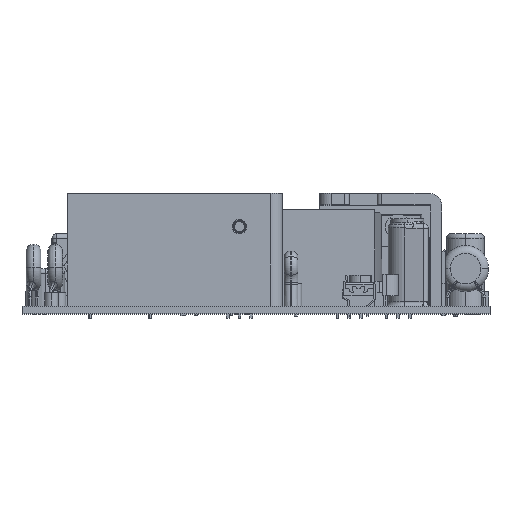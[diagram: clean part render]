
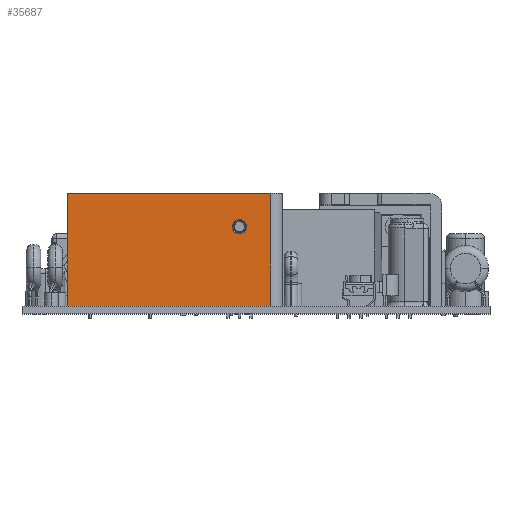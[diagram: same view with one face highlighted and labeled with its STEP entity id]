
A CAD part, top view. The second image highlights one B-rep face of the part: STEP entity #35687.
In plain terms, the highlighted planar face has unit normal (0, 0, 1).
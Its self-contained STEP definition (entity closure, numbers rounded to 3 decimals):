
#1046 = CARTESIAN_POINT ( 'NONE',  ( -27.45, 15., 5.3 ) ) ;
#2818 = DIRECTION ( 'NONE',  ( -1., 0., 0. ) ) ;
#2819 = DIRECTION ( 'NONE',  ( 0., 0., -1. ) ) ;
#2820 = AXIS2_PLACEMENT_3D ( 'NONE', #2826, #2819, #2818 ) ;
#2821 = CIRCLE ( 'NONE', #2820, 1.55 ) ;
#2826 = CARTESIAN_POINT ( 'NONE',  ( -25.9, 15., 5.3 ) ) ;
#2880 = CARTESIAN_POINT ( 'NONE',  ( -24.35, 15., 5.3 ) ) ;
#13644 = EDGE_CURVE ( 'NONE', #13646, #13955, #2821, .T. ) ;
#13646 = VERTEX_POINT ( 'NONE', #2880 ) ;
#13955 = VERTEX_POINT ( 'NONE', #1046 ) ;
#18005 = EDGE_CURVE ( 'NONE', #18007, #18309, #20535, .T. ) ;
#18007 = VERTEX_POINT ( 'NONE', #20710 ) ;
#18309 = VERTEX_POINT ( 'NONE', #21698 ) ;
#20528 = DIRECTION ( 'NONE',  ( 1., 0., 0. ) ) ;
#20530 = VECTOR ( 'NONE', #20528, 1000. ) ;
#20533 = CARTESIAN_POINT ( 'NONE',  ( -63.3, -2.3, 5.3 ) ) ;
#20535 = LINE ( 'NONE', #20533, #20530 ) ;
#20710 = CARTESIAN_POINT ( 'NONE',  ( -63.3, -2.3, 5.3 ) ) ;
#21698 = CARTESIAN_POINT ( 'NONE',  ( -19.1, -2.3, 5.3 ) ) ;
#33263 = ORIENTED_EDGE ( 'NONE', *, *, #18005, .T. ) ;
#35687 = ADVANCED_FACE ( 'NONE', ( #53202, #53198 ), #53243, .F. ) ;
#35716 = ORIENTED_EDGE ( 'NONE', *, *, #13644, .T. ) ;
#35717 = ORIENTED_EDGE ( 'NONE', *, *, #35746, .T. ) ;
#35742 = EDGE_CURVE ( 'NONE', #35743, #18007, #53242, .T. ) ;
#35743 = VERTEX_POINT ( 'NONE', #53233 ) ;
#35746 = EDGE_CURVE ( 'NONE', #13955, #13646, #53232, .T. ) ;
#35748 = EDGE_LOOP ( 'NONE', ( #33263, #36882, #37879, #37385 ) ) ;
#35786 = EDGE_LOOP ( 'NONE', ( #35716, #35717 ) ) ;
#36642 = EDGE_CURVE ( 'NONE', #37081, #18309, #53705, .T. ) ;
#36882 = ORIENTED_EDGE ( 'NONE', *, *, #36642, .F. ) ;
#37081 = VERTEX_POINT ( 'NONE', #53794 ) ;
#37154 = EDGE_CURVE ( 'NONE', #35743, #37081, #53792, .T. ) ;
#37385 = ORIENTED_EDGE ( 'NONE', *, *, #35742, .T. ) ;
#37879 = ORIENTED_EDGE ( 'NONE', *, *, #37154, .F. ) ;
#53198 = FACE_OUTER_BOUND ( 'NONE', #35748, .T. ) ;
#53202 = FACE_BOUND ( 'NONE', #35786, .T. ) ;
#53228 = DIRECTION ( 'NONE',  ( -1., 0., 0. ) ) ;
#53229 = DIRECTION ( 'NONE',  ( 0., 0., -1. ) ) ;
#53230 = CARTESIAN_POINT ( 'NONE',  ( -25.9, 15., 5.3 ) ) ;
#53231 = AXIS2_PLACEMENT_3D ( 'NONE', #53230, #53229, #53228 ) ;
#53232 = CIRCLE ( 'NONE', #53231, 1.55 ) ;
#53233 = CARTESIAN_POINT ( 'NONE',  ( -63.3, 22.2, 5.3 ) ) ;
#53234 = DIRECTION ( 'NONE',  ( 0., -1., 0. ) ) ;
#53235 = VECTOR ( 'NONE', #53234, 1000. ) ;
#53236 = CARTESIAN_POINT ( 'NONE',  ( -63.3, 22.2, 5.3 ) ) ;
#53238 = DIRECTION ( 'NONE',  ( -1., 0., 0. ) ) ;
#53239 = DIRECTION ( 'NONE',  ( 0., 0., -1. ) ) ;
#53240 = CARTESIAN_POINT ( 'NONE',  ( -63.3, 22.2, 5.3 ) ) ;
#53241 = AXIS2_PLACEMENT_3D ( 'NONE', #53240, #53239, #53238 ) ;
#53242 = LINE ( 'NONE', #53236, #53235 ) ;
#53243 = PLANE ( 'NONE',  #53241 ) ;
#53697 = DIRECTION ( 'NONE',  ( 0., -1., 0. ) ) ;
#53698 = VECTOR ( 'NONE', #53697, 1000. ) ;
#53699 = CARTESIAN_POINT ( 'NONE',  ( -19.1, 22.2, 5.3 ) ) ;
#53705 = LINE ( 'NONE', #53699, #53698 ) ;
#53789 = DIRECTION ( 'NONE',  ( 1., 0., 0. ) ) ;
#53790 = VECTOR ( 'NONE', #53789, 1000. ) ;
#53791 = CARTESIAN_POINT ( 'NONE',  ( -63.3, 22.2, 5.3 ) ) ;
#53792 = LINE ( 'NONE', #53791, #53790 ) ;
#53794 = CARTESIAN_POINT ( 'NONE',  ( -19.1, 22.2, 5.3 ) ) ;
